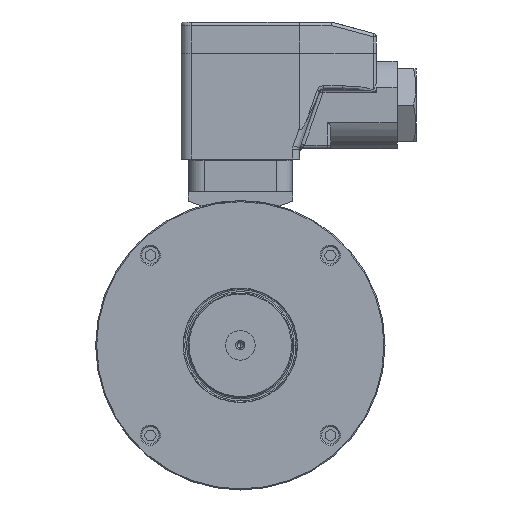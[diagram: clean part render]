
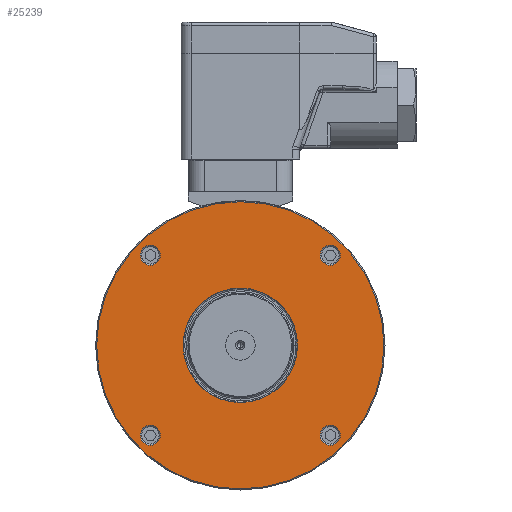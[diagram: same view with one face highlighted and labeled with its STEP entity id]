
A CAD part, left-side view. The second image highlights one B-rep face of the part: STEP entity #25239.
In plain terms, the highlighted planar face has unit normal (-1, 0, 0).
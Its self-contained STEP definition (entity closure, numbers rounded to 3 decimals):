
#45 = DIRECTION ( 'NONE',  ( 0., 1., 0. ) ) ;
#46 = DIRECTION ( 'NONE',  ( 1., 0., 0. ) ) ;
#135 = CARTESIAN_POINT ( 'NONE',  ( -132., 0., 0. ) ) ;
#139 = AXIS2_PLACEMENT_3D ( 'NONE', #135, #46, #45 ) ;
#151 = CIRCLE ( 'NONE', #139, 41.2 ) ;
#648 = ORIENTED_EDGE ( 'NONE', *, *, #2314, .T. ) ;
#1083 = EDGE_LOOP ( 'NONE', ( #28251, #2158 ) ) ;
#2158 = ORIENTED_EDGE ( 'NONE', *, *, #2400, .F. ) ;
#2160 = ORIENTED_EDGE ( 'NONE', *, *, #24933, .T. ) ;
#2310 = EDGE_CURVE ( 'NONE', #24874, #24862, #17539, .T. ) ;
#2311 = ORIENTED_EDGE ( 'NONE', *, *, #24896, .T. ) ;
#2312 = EDGE_CURVE ( 'NONE', #24417, #24460, #17448, .T. ) ;
#2314 = EDGE_CURVE ( 'NONE', #24894, #24869, #17449, .T. ) ;
#2315 = ORIENTED_EDGE ( 'NONE', *, *, #2312, .T. ) ;
#2384 = ORIENTED_EDGE ( 'NONE', *, *, #2310, .T. ) ;
#2386 = EDGE_LOOP ( 'NONE', ( #2311, #648 ) ) ;
#2400 = EDGE_CURVE ( 'NONE', #24845, #24844, #151, .T. ) ;
#3767 = EDGE_LOOP ( 'NONE', ( #3768, #2315 ) ) ;
#3768 = ORIENTED_EDGE ( 'NONE', *, *, #24419, .T. ) ;
#3769 = EDGE_CURVE ( 'NONE', #24902, #24937, #28185, .T. ) ;
#9831 = CARTESIAN_POINT ( 'NONE',  ( -132., 25.809, 22.959 ) ) ;
#9896 = DIRECTION ( 'NONE',  ( 0., -1., 0. ) ) ;
#9897 = AXIS2_PLACEMENT_3D ( 'NONE', #9903, #9907, #9896 ) ;
#9903 = CARTESIAN_POINT ( 'NONE',  ( -132., 25.809, 25.809 ) ) ;
#9907 = DIRECTION ( 'NONE',  ( 1., 0., 0. ) ) ;
#9912 = CIRCLE ( 'NONE', #9897, 2.85 ) ;
#9997 = CARTESIAN_POINT ( 'NONE',  ( -132., 25.809, 28.659 ) ) ;
#11287 = CARTESIAN_POINT ( 'NONE',  ( -132., -25.809, -28.659 ) ) ;
#11304 = CIRCLE ( 'NONE', #11309, 2.85 ) ;
#11308 = CARTESIAN_POINT ( 'NONE',  ( -132., -25.809, 25.809 ) ) ;
#11309 = AXIS2_PLACEMENT_3D ( 'NONE', #11308, #11367, #11357 ) ;
#11315 = DIRECTION ( 'NONE',  ( 1., 0., 0. ) ) ;
#11319 = CARTESIAN_POINT ( 'NONE',  ( -132., 41.2, 0. ) ) ;
#11320 = CARTESIAN_POINT ( 'NONE',  ( -132., -41.2, 0. ) ) ;
#11343 = DIRECTION ( 'NONE',  ( 0., -1., 0. ) ) ;
#11344 = AXIS2_PLACEMENT_3D ( 'NONE', #11358, #11315, #11343 ) ;
#11346 = CARTESIAN_POINT ( 'NONE',  ( -132., -25.809, -22.959 ) ) ;
#11349 = CARTESIAN_POINT ( 'NONE',  ( -132., 25.809, -22.959 ) ) ;
#11354 = CIRCLE ( 'NONE', #11344, 2.85 ) ;
#11357 = DIRECTION ( 'NONE',  ( 0., -1., 0. ) ) ;
#11358 = CARTESIAN_POINT ( 'NONE',  ( -132., -25.809, -25.809 ) ) ;
#11367 = DIRECTION ( 'NONE',  ( 1., 0., 0. ) ) ;
#11432 = CARTESIAN_POINT ( 'NONE',  ( -132., -25.809, 22.959 ) ) ;
#11437 = CARTESIAN_POINT ( 'NONE',  ( -132., 25.809, -28.659 ) ) ;
#11548 = CARTESIAN_POINT ( 'NONE',  ( -132., 16.4, 0. ) ) ;
#11550 = DIRECTION ( 'NONE',  ( 0., 1., 0. ) ) ;
#11551 = DIRECTION ( 'NONE',  ( 1., 0., 0. ) ) ;
#11555 = CARTESIAN_POINT ( 'NONE',  ( -132., -25.809, 28.659 ) ) ;
#11560 = CARTESIAN_POINT ( 'NONE',  ( -132., 0., 0. ) ) ;
#11567 = AXIS2_PLACEMENT_3D ( 'NONE', #11560, #11551, #11550 ) ;
#11569 = CIRCLE ( 'NONE', #11567, 16.4 ) ;
#11617 = DIRECTION ( 'NONE',  ( 0., 1., 0. ) ) ;
#11618 = DIRECTION ( 'NONE',  ( 1., 0., 0. ) ) ;
#11619 = AXIS2_PLACEMENT_3D ( 'NONE', #11643, #11618, #11617 ) ;
#11630 = CARTESIAN_POINT ( 'NONE',  ( -132., -16.4, 0. ) ) ;
#11632 = CIRCLE ( 'NONE', #11619, 41.2 ) ;
#11638 = DIRECTION ( 'NONE',  ( 0., -1., 0. ) ) ;
#11639 = DIRECTION ( 'NONE',  ( 1., 0., 0. ) ) ;
#11640 = CARTESIAN_POINT ( 'NONE',  ( -132., 25.809, -25.809 ) ) ;
#11641 = AXIS2_PLACEMENT_3D ( 'NONE', #11640, #11639, #11638 ) ;
#11642 = CIRCLE ( 'NONE', #11641, 2.85 ) ;
#11643 = CARTESIAN_POINT ( 'NONE',  ( -132., 0., 0. ) ) ;
#11811 = CARTESIAN_POINT ( 'NONE',  ( -132., -25.809, 25.809 ) ) ;
#11885 = AXIS2_PLACEMENT_3D ( 'NONE', #11811, #12047, #12045 ) ;
#11886 = CIRCLE ( 'NONE', #11885, 2.85 ) ;
#12045 = DIRECTION ( 'NONE',  ( 0., -1., 0. ) ) ;
#12047 = DIRECTION ( 'NONE',  ( 1., 0., 0. ) ) ;
#12212 = PLANE ( 'NONE',  #12396 ) ;
#12218 = FACE_BOUND ( 'NONE', #3767, .T. ) ;
#12388 = DIRECTION ( 'NONE',  ( 0., 1., 0. ) ) ;
#12395 = FACE_BOUND ( 'NONE', #28250, .T. ) ;
#12396 = AXIS2_PLACEMENT_3D ( 'NONE', #12409, #12401, #12388 ) ;
#12399 = FACE_BOUND ( 'NONE', #2386, .T. ) ;
#12400 = FACE_BOUND ( 'NONE', #24259, .T. ) ;
#12401 = DIRECTION ( 'NONE',  ( -1., 0., 0. ) ) ;
#12405 = FACE_BOUND ( 'NONE', #25217, .T. ) ;
#12406 = FACE_OUTER_BOUND ( 'NONE', #1083, .T. ) ;
#12409 = CARTESIAN_POINT ( 'NONE',  ( -132., 16.4, 0. ) ) ;
#17365 = CARTESIAN_POINT ( 'NONE',  ( -132., 25.809, -25.809 ) ) ;
#17366 = DIRECTION ( 'NONE',  ( 0., -1., 0. ) ) ;
#17367 = DIRECTION ( 'NONE',  ( 1., 0., 0. ) ) ;
#17371 = AXIS2_PLACEMENT_3D ( 'NONE', #17365, #17392, #17391 ) ;
#17372 = DIRECTION ( 'NONE',  ( 0., -1., 0. ) ) ;
#17373 = DIRECTION ( 'NONE',  ( 1., 0., 0. ) ) ;
#17374 = CARTESIAN_POINT ( 'NONE',  ( -132., -25.809, -25.809 ) ) ;
#17376 = AXIS2_PLACEMENT_3D ( 'NONE', #17374, #17373, #17372 ) ;
#17391 = DIRECTION ( 'NONE',  ( 0., -1., 0. ) ) ;
#17392 = DIRECTION ( 'NONE',  ( 1., 0., 0. ) ) ;
#17448 = CIRCLE ( 'NONE', #17544, 2.85 ) ;
#17449 = CIRCLE ( 'NONE', #17371, 2.85 ) ;
#17539 = CIRCLE ( 'NONE', #17376, 2.85 ) ;
#17540 = CARTESIAN_POINT ( 'NONE',  ( -132., 25.809, 25.809 ) ) ;
#17544 = AXIS2_PLACEMENT_3D ( 'NONE', #17540, #17367, #17366 ) ;
#24259 = EDGE_LOOP ( 'NONE', ( #25235, #2384 ) ) ;
#24417 = VERTEX_POINT ( 'NONE', #9831 ) ;
#24419 = EDGE_CURVE ( 'NONE', #24460, #24417, #9912, .T. ) ;
#24460 = VERTEX_POINT ( 'NONE', #9997 ) ;
#24740 = ORIENTED_EDGE ( 'NONE', *, *, #25006, .T. ) ;
#24844 = VERTEX_POINT ( 'NONE', #11320 ) ;
#24845 = VERTEX_POINT ( 'NONE', #11319 ) ;
#24856 = EDGE_CURVE ( 'NONE', #24925, #24892, #11304, .T. ) ;
#24861 = EDGE_CURVE ( 'NONE', #24862, #24874, #11354, .T. ) ;
#24862 = VERTEX_POINT ( 'NONE', #11346 ) ;
#24869 = VERTEX_POINT ( 'NONE', #11349 ) ;
#24874 = VERTEX_POINT ( 'NONE', #11287 ) ;
#24892 = VERTEX_POINT ( 'NONE', #11432 ) ;
#24894 = VERTEX_POINT ( 'NONE', #11437 ) ;
#24896 = EDGE_CURVE ( 'NONE', #24869, #24894, #11642, .T. ) ;
#24902 = VERTEX_POINT ( 'NONE', #11630 ) ;
#24903 = EDGE_CURVE ( 'NONE', #24844, #24845, #11632, .T. ) ;
#24925 = VERTEX_POINT ( 'NONE', #11555 ) ;
#24933 = EDGE_CURVE ( 'NONE', #24937, #24902, #11569, .T. ) ;
#24937 = VERTEX_POINT ( 'NONE', #11548 ) ;
#24964 = ORIENTED_EDGE ( 'NONE', *, *, #24856, .T. ) ;
#25006 = EDGE_CURVE ( 'NONE', #24892, #24925, #11886, .T. ) ;
#25217 = EDGE_LOOP ( 'NONE', ( #24964, #24740 ) ) ;
#25235 = ORIENTED_EDGE ( 'NONE', *, *, #24861, .T. ) ;
#25239 = ADVANCED_FACE ( 'NONE', ( #12405, #12400, #12399, #12218, #12406, #12395 ), #12212, .T. ) ;
#28112 = AXIS2_PLACEMENT_3D ( 'NONE', #28218, #28187, #28119 ) ;
#28119 = DIRECTION ( 'NONE',  ( 0., 1., 0. ) ) ;
#28185 = CIRCLE ( 'NONE', #28112, 16.4 ) ;
#28187 = DIRECTION ( 'NONE',  ( 1., 0., 0. ) ) ;
#28218 = CARTESIAN_POINT ( 'NONE',  ( -132., 0., 0. ) ) ;
#28250 = EDGE_LOOP ( 'NONE', ( #2160, #28252 ) ) ;
#28251 = ORIENTED_EDGE ( 'NONE', *, *, #24903, .F. ) ;
#28252 = ORIENTED_EDGE ( 'NONE', *, *, #3769, .T. ) ;
